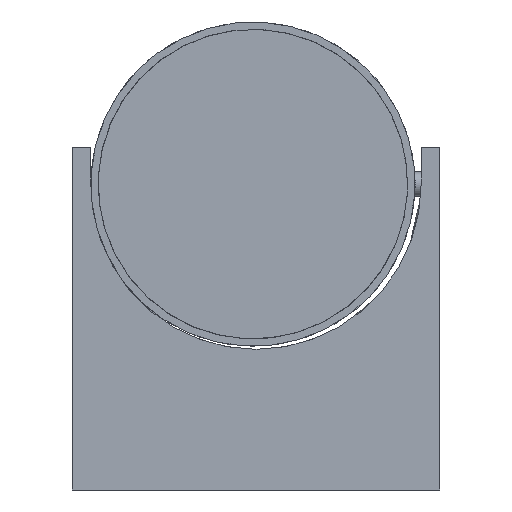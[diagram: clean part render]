
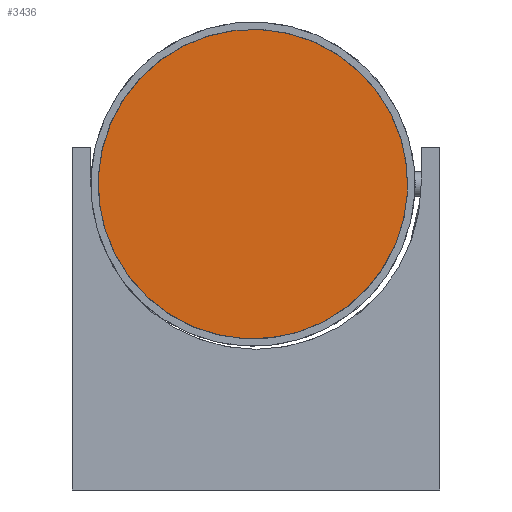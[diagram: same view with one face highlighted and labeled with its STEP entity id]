
A CAD part, front view. The second image highlights one B-rep face of the part: STEP entity #3436.
In plain terms, the highlighted planar face has unit normal (0, -1, 0) as drawn and (0, 0, -1) by its records, which use the part's own axes.
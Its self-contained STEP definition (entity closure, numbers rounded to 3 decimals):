
#865 = VERTEX_POINT ( 'NONE', #3945 ) ;
#870 = CARTESIAN_POINT ( 'NONE',  ( 0., 0., 0. ) ) ;
#918 = DIRECTION ( 'NONE',  ( 1., 0., 0. ) ) ;
#1040 = DIRECTION ( 'NONE',  ( 0., 0., 1. ) ) ;
#1235 = ORIENTED_EDGE ( 'NONE', *, *, #4637, .F. ) ;
#1263 = PLANE ( 'NONE',  #3778 ) ;
#2167 = DIRECTION ( 'NONE',  ( 1., 0., 0. ) ) ;
#2644 = DIRECTION ( 'NONE',  ( 0., 0., 1. ) ) ;
#2925 = AXIS2_PLACEMENT_3D ( 'NONE', #3138, #1040, #918 ) ;
#3111 = VERTEX_POINT ( 'NONE', #4838 ) ;
#3138 = CARTESIAN_POINT ( 'NONE',  ( 0., 0., 0. ) ) ;
#3159 = EDGE_CURVE ( 'NONE', #865, #3111, #4591, .T. ) ;
#3369 = DIRECTION ( 'NONE',  ( 0., 0., 1. ) ) ;
#3436 = ADVANCED_FACE ( 'NONE', ( #3951 ), #1263, .F. ) ;
#3640 = DIRECTION ( 'NONE',  ( 1., 0., 0. ) ) ;
#3707 = ORIENTED_EDGE ( 'NONE', *, *, #3159, .F. ) ;
#3778 = AXIS2_PLACEMENT_3D ( 'NONE', #870, #2644, #2167 ) ;
#3945 = CARTESIAN_POINT ( 'NONE',  ( -25.3, 0., 0. ) ) ;
#3951 = FACE_OUTER_BOUND ( 'NONE', #4784, .T. ) ;
#4243 = CARTESIAN_POINT ( 'NONE',  ( 0., 0., 0. ) ) ;
#4591 = CIRCLE ( 'NONE', #5313, 25.3 ) ;
#4637 = EDGE_CURVE ( 'NONE', #3111, #865, #5068, .T. ) ;
#4784 = EDGE_LOOP ( 'NONE', ( #3707, #1235 ) ) ;
#4838 = CARTESIAN_POINT ( 'NONE',  ( 25.3, 0., 0. ) ) ;
#5068 = CIRCLE ( 'NONE', #2925, 25.3 ) ;
#5313 = AXIS2_PLACEMENT_3D ( 'NONE', #4243, #3369, #3640 ) ;
